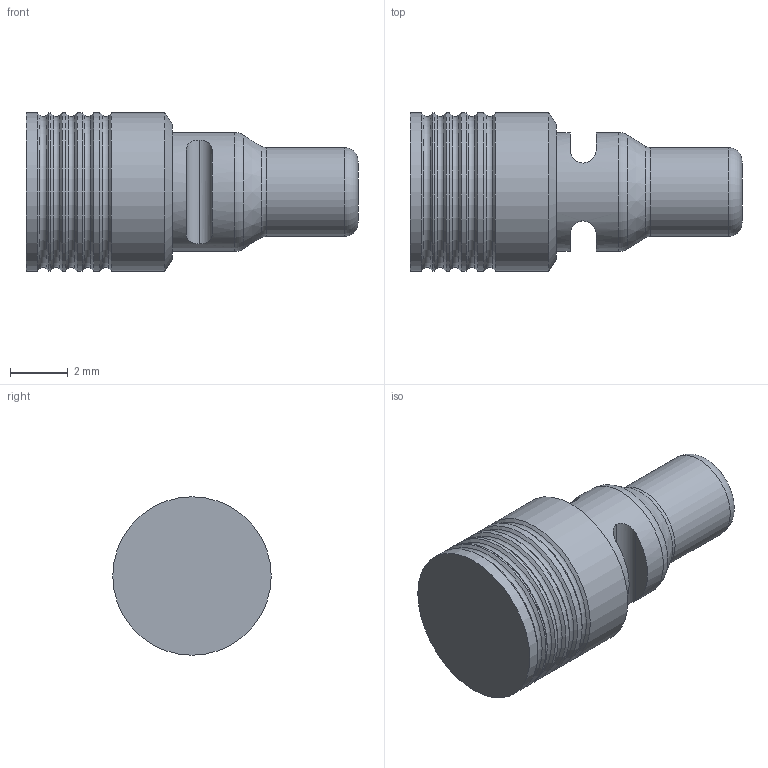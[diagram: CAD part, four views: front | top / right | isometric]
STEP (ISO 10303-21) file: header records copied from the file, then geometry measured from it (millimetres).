
FILE_DESCRIPTION(/* description */ ('LEE CHEK VALVE, 558 LC SERIES, FORWARD'),/* implementation_level */ '2;1');
FILE_NAME(/* name */ '\\ABSOLUTE\SmWork\Vernon\CLCF551XXXXS.stp',/* time_stamp */ '2021-03-23T13:59:38-04:00',/* author */ ('VernonJ'),/* organization */ (''),/* preprocessor_version */ 'ST-DEVELOPER v18',/* originating_system */ 'Autodesk Inventor 2020',/* authorisation */ '');
FILE_SCHEMA (('AUTOMOTIVE_DESIGN { 1 0 10303 214 3 1 1 }'));
Length unit declared in the file: millimetre
Products named in the file (1): CLCF551XXXXS
Bounding box: 11.5 x 5.49 x 5.49 mm (x, y, z)
Volume: 175.2 mm3; surface area: 210.4 mm2
Topology: 1 solids, 1 shells, 39 faces, 124 edges, 89 vertices
Faces by surface type: cylinder 12, cone 12, torus 8, plane 7
Full cylindrical faces by diameter (mm): 3.07 x1, 4.12 x1, 5.49 x6
Entity records: 1556 total; most frequent: CARTESIAN_POINT 325, DIRECTION 285, ORIENTED_EDGE 248, AXIS2_PLACEMENT_3D 129, EDGE_CURVE 124, CIRCLE 89, VERTEX_POINT 89, EDGE_LOOP 41
